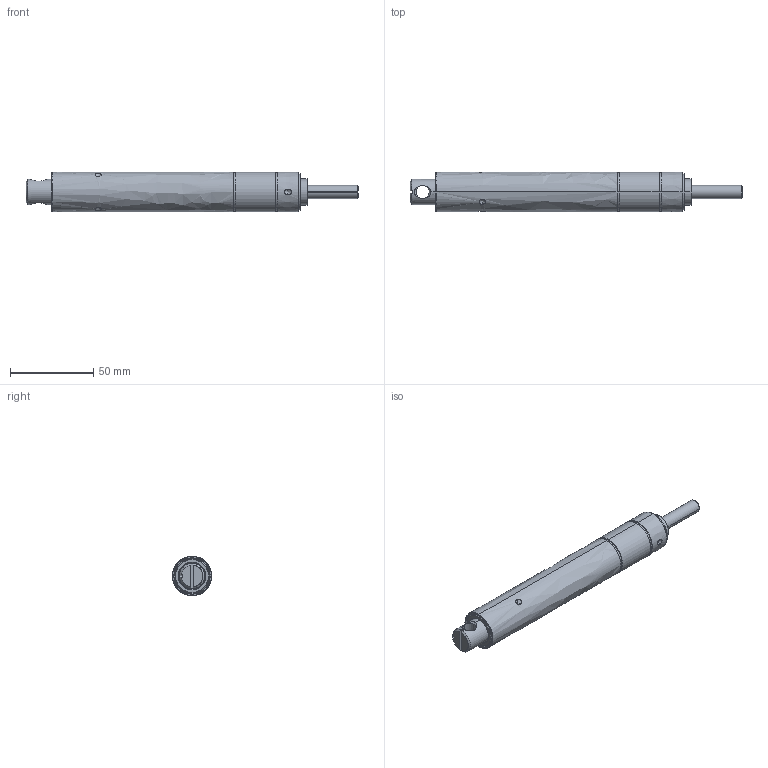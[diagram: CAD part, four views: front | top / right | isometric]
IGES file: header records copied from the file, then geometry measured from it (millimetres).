
Start section: SolidWorks IGES file using analytic representation for surfaces
Global section: file name: D:\IGS跡宒\HR25-K.IGS,1; native system: 5HSolidWorks 2013; preprocessor: SolidWorks 2013; author: Administrator; date: 160406.153924; units: inch
Bounding box: 199.92 x 23.8 x 23.8 mm (x, y, z)
Surface area: 16422.2 mm2 (no closed solid volume)
Topology: 0 solids, 0 shells, 83 faces, 1578 edges, 1568 vertices
Faces by surface type: revolution 62, bspline 21
